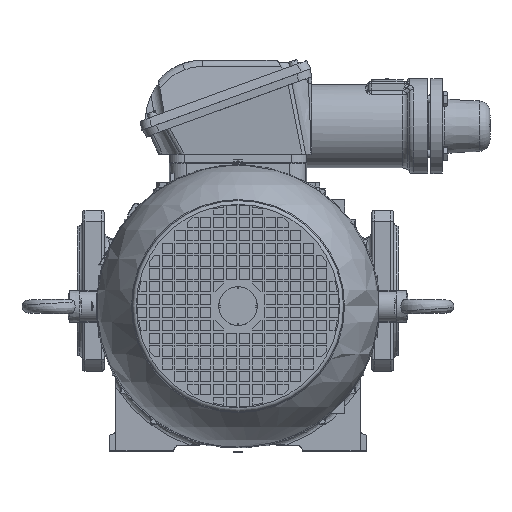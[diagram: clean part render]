
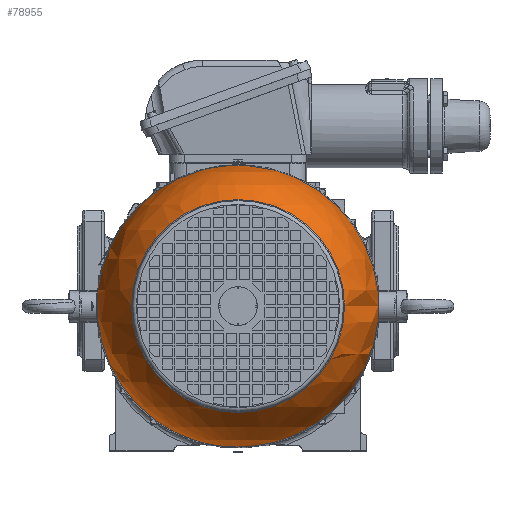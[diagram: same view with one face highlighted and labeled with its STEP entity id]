
A CAD part, top view. The second image highlights one B-rep face of the part: STEP entity #78955.
In plain terms, the highlighted spherical face has radius 109.545 mm.
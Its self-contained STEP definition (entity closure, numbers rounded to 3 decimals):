
#19=SPHERICAL_SURFACE('',#83985,109.545);
#8352=FACE_BOUND('',#16410,.T.);
#11774=FACE_OUTER_BOUND('',#16409,.T.);
#16409=EDGE_LOOP('',(#57518,#57519));
#16410=EDGE_LOOP('',(#57520,#57521));
#33375=CIRCLE('',#83969,109.507);
#33386=CIRCLE('',#83986,11.444);
#33387=CIRCLE('',#83987,82.833);
#33388=CIRCLE('',#83988,82.833);
#36855=VERTEX_POINT('',#121475);
#36856=VERTEX_POINT('',#121476);
#36893=VERTEX_POINT('',#121749);
#36894=VERTEX_POINT('',#121750);
#44695=EDGE_CURVE('',#36855,#36856,#33375,.T.);
#44738=EDGE_CURVE('',#36856,#36855,#33386,.T.);
#44739=EDGE_CURVE('',#36893,#36894,#33387,.T.);
#44740=EDGE_CURVE('',#36894,#36893,#33388,.T.);
#57518=ORIENTED_EDGE('',*,*,#44695,.T.);
#57519=ORIENTED_EDGE('',*,*,#44738,.T.);
#57520=ORIENTED_EDGE('',*,*,#44739,.F.);
#57521=ORIENTED_EDGE('',*,*,#44740,.F.);
#78955=ADVANCED_FACE('',(#11774,#8352),#19,.T.);
#83969=AXIS2_PLACEMENT_3D('',#121477,#92483,#92484);
#83985=AXIS2_PLACEMENT_3D('',#121747,#92530,#92531);
#83986=AXIS2_PLACEMENT_3D('',#121748,#92532,#92533);
#83987=AXIS2_PLACEMENT_3D('',#121751,#92534,#92535);
#83988=AXIS2_PLACEMENT_3D('',#121752,#92536,#92537);
#92483=DIRECTION('center_axis',(0.,0.,
1.));
#92484=DIRECTION('ref_axis',(0.,1.,0.));
#92530=DIRECTION('center_axis',(0.,-1.,0.));
#92531=DIRECTION('ref_axis',(-1.,0.,0.));
#92532=DIRECTION('center_axis',(-1.,0.,0.));
#92533=DIRECTION('ref_axis',(0.,1.,0.));
#92534=DIRECTION('center_axis',(0.,0.,
1.));
#92535=DIRECTION('ref_axis',(0.,1.,0.));
#92536=DIRECTION('center_axis',(0.,0.,
1.));
#92537=DIRECTION('ref_axis',(0.,1.,0.));
#121475=CARTESIAN_POINT('',(108.945,11.079,328.268));
#121476=CARTESIAN_POINT('',(108.945,-11.079,328.268));
#121477=CARTESIAN_POINT('Origin',(0.,0.,
328.268));
#121747=CARTESIAN_POINT('Origin',(0.,0.,
325.4));
#121748=CARTESIAN_POINT('Origin',(108.945,0.,
325.4));
#121749=CARTESIAN_POINT('',(0.,82.833,397.084));
#121750=CARTESIAN_POINT('',(0.,-82.833,397.084));
#121751=CARTESIAN_POINT('Origin',(0.,0.,
397.084));
#121752=CARTESIAN_POINT('Origin',(0.,0.,
397.084));
